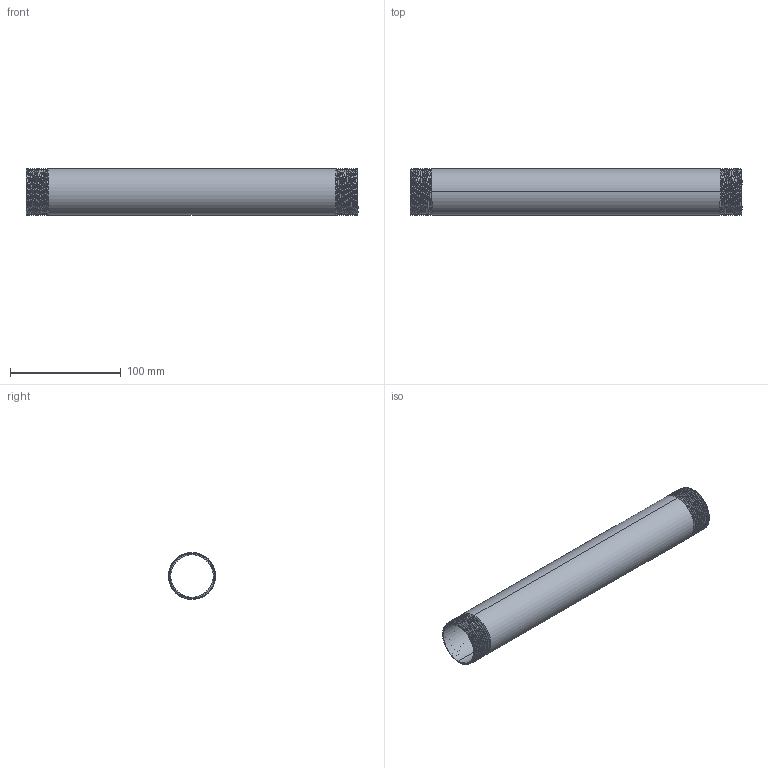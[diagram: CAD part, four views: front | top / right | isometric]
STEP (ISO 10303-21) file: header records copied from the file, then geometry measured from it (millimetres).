
FILE_DESCRIPTION (( 'STEP AP203' ), '1' );
FILE_NAME ('3D_R210_1 1-4x300_17185957.STEP', '2024-08-16T14:28:17', ( '' ), ( '' ), 'SwSTEP 2.0', 'SolidWorks 2024', '' );
FILE_SCHEMA (( 'CONFIG_CONTROL_DESIGN' ));
Length unit declared in the file: millimetre
Products named in the file (1): 3D_R210_1 1-4x300_17185957
Bounding box: 300 x 42.38 x 42.4 mm (x, y, z)
Volume: 72943.4 mm3; surface area: 79259.5 mm2
Topology: 1 solids, 1 shells, 56 faces, 156 edges, 102 vertices
Faces by surface type: cone 42, bspline 6, cylinder 4, plane 4
Entity records: 9727 total; most frequent: CARTESIAN_POINT 8423, ORIENTED_EDGE 312, DIRECTION 172, EDGE_CURVE 156, VERTEX_POINT 102, B_SPLINE_CURVE_WITH_KNOTS 88, AXIS2_PLACEMENT_3D 61, EDGE_LOOP 58
